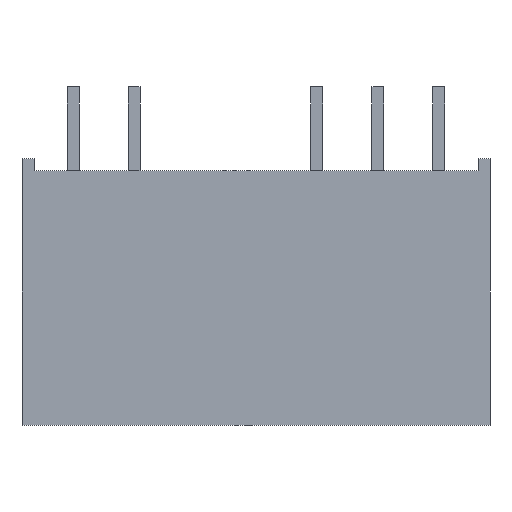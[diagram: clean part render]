
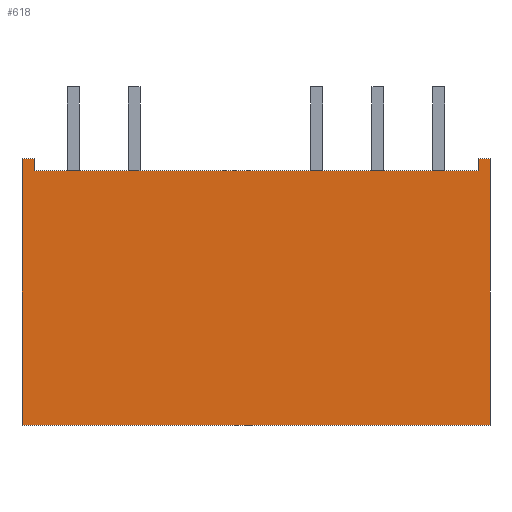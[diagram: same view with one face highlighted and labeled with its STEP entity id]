
A CAD part, front view. The second image highlights one B-rep face of the part: STEP entity #618.
In plain terms, the highlighted planar face has unit normal (0, -1, 0).
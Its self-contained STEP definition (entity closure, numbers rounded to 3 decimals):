
#72=ORIENTED_EDGE('',*,*,#198,.T.);
#73=ORIENTED_EDGE('',*,*,#230,.T.);
#74=ORIENTED_EDGE('',*,*,#212,.F.);
#75=ORIENTED_EDGE('',*,*,#216,.F.);
#76=ORIENTED_EDGE('',*,*,#226,.F.);
#77=ORIENTED_EDGE('',*,*,#223,.F.);
#78=ORIENTED_EDGE('',*,*,#221,.F.);
#79=ORIENTED_EDGE('',*,*,#231,.T.);
#198=EDGE_CURVE('',#283,#282,#338,.T.);
#212=EDGE_CURVE('',#296,#297,#352,.T.);
#216=EDGE_CURVE('',#300,#296,#356,.T.);
#221=EDGE_CURVE('',#304,#305,#361,.T.);
#223=EDGE_CURVE('',#305,#306,#363,.T.);
#226=EDGE_CURVE('',#306,#300,#366,.T.);
#230=EDGE_CURVE('',#282,#297,#370,.T.);
#231=EDGE_CURVE('',#304,#283,#371,.T.);
#282=VERTEX_POINT('',#872);
#283=VERTEX_POINT('',#874);
#296=VERTEX_POINT('',#902);
#297=VERTEX_POINT('',#903);
#300=VERTEX_POINT('',#911);
#304=VERTEX_POINT('',#920);
#305=VERTEX_POINT('',#922);
#306=VERTEX_POINT('',#926);
#338=LINE('',#873,#422);
#352=LINE('',#901,#436);
#356=LINE('',#910,#440);
#361=LINE('',#921,#445);
#363=LINE('',#925,#447);
#366=LINE('',#931,#450);
#370=LINE('',#937,#454);
#371=LINE('',#938,#455);
#422=VECTOR('',#708,1000.);
#436=VECTOR('',#724,1000.);
#440=VECTOR('',#730,1000.);
#445=VECTOR('',#737,1000.);
#447=VECTOR('',#741,1000.);
#450=VECTOR('',#746,1000.);
#454=VECTOR('',#754,1000.);
#455=VECTOR('',#755,1000.);
#508=EDGE_LOOP('',(#72,#73,#74,#75,#76,#77,#78,#79));
#548=FACE_BOUND('',#508,.T.);
#583=PLANE('',#666);
#618=ADVANCED_FACE('',(#548),#583,.F.);
#666=AXIS2_PLACEMENT_3D('',#936,#752,#753);
#708=DIRECTION('',(-1.,0.,0.));
#724=DIRECTION('',(1.,0.,0.));
#730=DIRECTION('',(0.,0.,1.));
#737=DIRECTION('',(1.,0.,0.));
#741=DIRECTION('',(0.,0.,-1.));
#746=DIRECTION('',(-1.,0.,0.));
#752=DIRECTION('',(0.,1.,0.));
#753=DIRECTION('',(0.,0.,1.));
#754=DIRECTION('',(0.,0.,1.));
#755=DIRECTION('',(0.,0.,-1.));
#872=CARTESIAN_POINT('',(-9.25,0.,6.41));
#873=CARTESIAN_POINT('',(-9.25,0.,6.41));
#874=CARTESIAN_POINT('',(9.25,0.,6.41));
#901=CARTESIAN_POINT('',(-9.75,0.,6.91));
#902=CARTESIAN_POINT('',(-9.75,0.,6.91));
#903=CARTESIAN_POINT('',(-9.25,0.,6.91));
#910=CARTESIAN_POINT('',(-9.75,0.,-4.19));
#911=CARTESIAN_POINT('',(-9.75,0.,-4.19));
#920=CARTESIAN_POINT('',(9.25,0.,6.91));
#921=CARTESIAN_POINT('',(-9.75,0.,6.91));
#922=CARTESIAN_POINT('',(9.75,0.,6.91));
#925=CARTESIAN_POINT('',(9.75,0.,-4.19));
#926=CARTESIAN_POINT('',(9.75,0.,-4.19));
#931=CARTESIAN_POINT('',(-9.75,0.,-4.19));
#936=CARTESIAN_POINT('',(-9.75,0.,6.91));
#937=CARTESIAN_POINT('',(-9.25,0.,6.91));
#938=CARTESIAN_POINT('',(9.25,0.,6.91));
